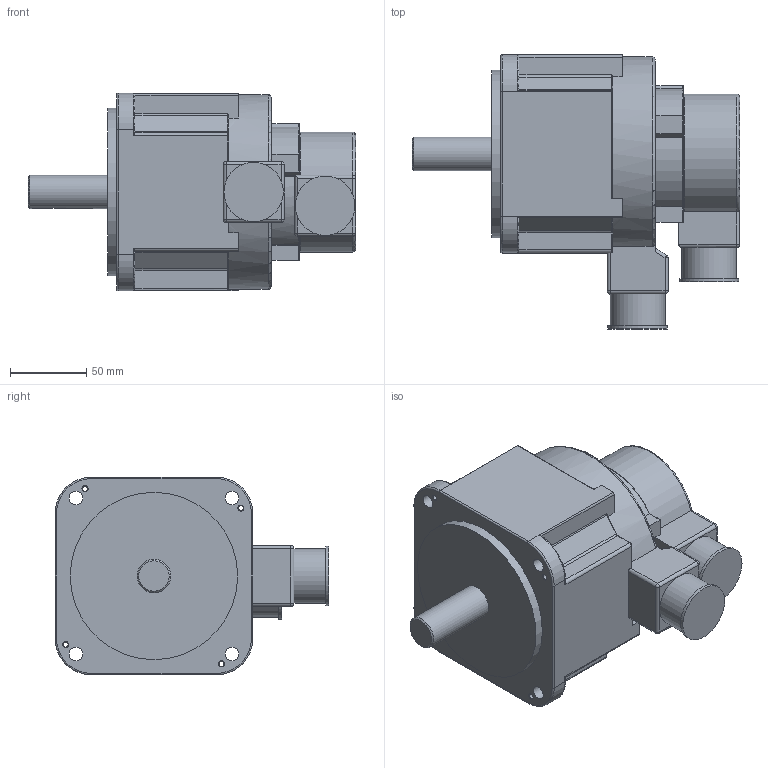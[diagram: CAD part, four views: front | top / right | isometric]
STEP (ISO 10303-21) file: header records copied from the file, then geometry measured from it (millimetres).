
FILE_DESCRIPTION(/* description */ (''),/* implementation_level */ '2;1');
FILE_NAME(/* name */ '130GSL05415MNA.stp',/* time_stamp */ '2020-09-04T08:33:23+08:00',/* author */ (''),/* organization */ (''),/* preprocessor_version */ 'ST-DEVELOPER v16',/* originating_system */ 'SIEMENS PLM Software NX 10.0',/* authorisation */ '');
FILE_SCHEMA (('AP203_CONFIGURATION_CONTROLLED_3D_DESIGN_OF_MECHANICAL_PARTS_AND_ASSEMBLIES_MIM_LF { 1 0 10303 403 2 1 2}'));
Length unit declared in the file: millimetre
Products named in the file (1): Admi20FCF19E3xkb
Bounding box: 215 x 180 x 130 mm (x, y, z)
Volume: 1961207.2 mm3; surface area: 115915.2 mm2
Topology: 1 solids, 1 shells, 238 faces, 591 edges, 350 vertices
Faces by surface type: cylinder 106, plane 77, torus 31, sphere 11, cone 9, bspline 4
Full cylindrical faces by diameter (mm): 3.3 x4, 9 x4, 22 x1, 36 x2, 39 x2, 110 x1
Entity records: 7465 total; most frequent: CARTESIAN_POINT 1834, DIRECTION 1225, ORIENTED_EDGE 1090, EDGE_CURVE 545, AXIS2_PLACEMENT_3D 482, VERTEX_POINT 338, EDGE_LOOP 283, LINE 261
